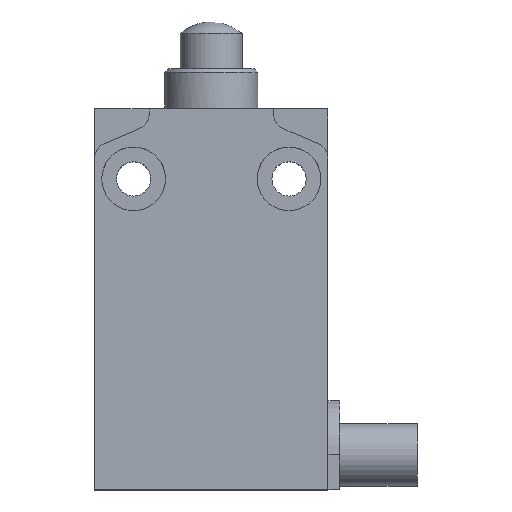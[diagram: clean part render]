
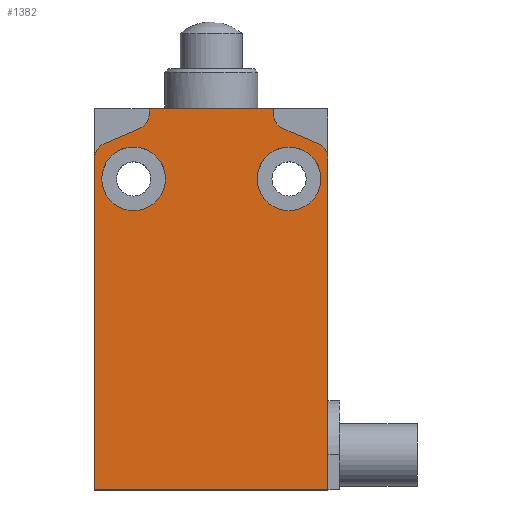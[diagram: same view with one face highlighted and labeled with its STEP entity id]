
A CAD part, top view. The second image highlights one B-rep face of the part: STEP entity #1382.
In plain terms, the highlighted planar face has unit normal (0, 0, 1) as drawn and (0, -1, 0) by its records, which use the part's own axes.
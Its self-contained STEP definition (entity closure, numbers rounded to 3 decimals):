
#45=FACE_BOUND('',#207,.T.);
#46=FACE_BOUND('',#208,.T.);
#65=PLANE('',#1546);
#123=FACE_OUTER_BOUND('',#206,.T.);
#206=EDGE_LOOP('',(#1011,#1012,#1013,#1014,#1015,#1016,#1017,#1018,#1019,
#1020,#1021,#1022));
#207=EDGE_LOOP('',(#1023,#1024));
#208=EDGE_LOOP('',(#1025));
#299=LINE('',#2196,#412);
#310=LINE('',#2234,#423);
#311=LINE('',#2238,#424);
#312=LINE('',#2240,#425);
#313=LINE('',#2242,#426);
#314=LINE('',#2246,#427);
#315=LINE('',#2250,#428);
#316=LINE('',#2251,#429);
#412=VECTOR('',#1772,42.681);
#423=VECTOR('',#1815,4.978);
#424=VECTOR('',#1818,0.681);
#425=VECTOR('',#1819,16.);
#426=VECTOR('',#1820,0.681);
#427=VECTOR('',#1823,4.978);
#428=VECTOR('',#1826,42.681);
#429=VECTOR('',#1827,30.);
#501=CIRCLE('',#1498,4.1);
#506=CIRCLE('',#1506,4.1);
#507=CIRCLE('',#1507,4.1);
#524=CIRCLE('',#1544,2.);
#526=CIRCLE('',#1547,2.);
#527=CIRCLE('',#1548,2.);
#528=CIRCLE('',#1549,2.);
#573=VERTEX_POINT('',#2090);
#578=VERTEX_POINT('',#2106);
#579=VERTEX_POINT('',#2107);
#612=VERTEX_POINT('',#2193);
#613=VERTEX_POINT('',#2195);
#622=VERTEX_POINT('',#2227);
#624=VERTEX_POINT('',#2233);
#625=VERTEX_POINT('',#2235);
#626=VERTEX_POINT('',#2237);
#627=VERTEX_POINT('',#2239);
#628=VERTEX_POINT('',#2241);
#629=VERTEX_POINT('',#2243);
#630=VERTEX_POINT('',#2245);
#631=VERTEX_POINT('',#2247);
#632=VERTEX_POINT('',#2249);
#707=EDGE_CURVE('',#573,#573,#501,.T.);
#714=EDGE_CURVE('',#578,#579,#506,.T.);
#715=EDGE_CURVE('',#579,#578,#507,.T.);
#757=EDGE_CURVE('',#612,#613,#299,.T.);
#771=EDGE_CURVE('',#622,#612,#524,.T.);
#774=EDGE_CURVE('',#622,#624,#310,.T.);
#775=EDGE_CURVE('',#625,#624,#526,.T.);
#776=EDGE_CURVE('',#625,#626,#311,.T.);
#777=EDGE_CURVE('',#627,#626,#312,.T.);
#778=EDGE_CURVE('',#627,#628,#313,.T.);
#779=EDGE_CURVE('',#629,#628,#527,.T.);
#780=EDGE_CURVE('',#629,#630,#314,.T.);
#781=EDGE_CURVE('',#631,#630,#528,.T.);
#782=EDGE_CURVE('',#632,#631,#315,.T.);
#783=EDGE_CURVE('',#613,#632,#316,.T.);
#1011=ORIENTED_EDGE('',*,*,#771,.F.);
#1012=ORIENTED_EDGE('',*,*,#774,.T.);
#1013=ORIENTED_EDGE('',*,*,#775,.F.);
#1014=ORIENTED_EDGE('',*,*,#776,.T.);
#1015=ORIENTED_EDGE('',*,*,#777,.F.);
#1016=ORIENTED_EDGE('',*,*,#778,.T.);
#1017=ORIENTED_EDGE('',*,*,#779,.F.);
#1018=ORIENTED_EDGE('',*,*,#780,.T.);
#1019=ORIENTED_EDGE('',*,*,#781,.F.);
#1020=ORIENTED_EDGE('',*,*,#782,.F.);
#1021=ORIENTED_EDGE('',*,*,#783,.F.);
#1022=ORIENTED_EDGE('',*,*,#757,.F.);
#1023=ORIENTED_EDGE('',*,*,#714,.T.);
#1024=ORIENTED_EDGE('',*,*,#715,.T.);
#1025=ORIENTED_EDGE('',*,*,#707,.T.);
#1382=ADVANCED_FACE('',(#123,#45,#46),#65,.T.);
#1498=AXIS2_PLACEMENT_3D('',#2092,#1675,#1676);
#1506=AXIS2_PLACEMENT_3D('',#2108,#1693,#1694);
#1507=AXIS2_PLACEMENT_3D('',#2109,#1695,#1696);
#1544=AXIS2_PLACEMENT_3D('',#2228,#1808,#1809);
#1546=AXIS2_PLACEMENT_3D('',#2232,#1813,#1814);
#1547=AXIS2_PLACEMENT_3D('',#2236,#1816,#1817);
#1548=AXIS2_PLACEMENT_3D('',#2244,#1821,#1822);
#1549=AXIS2_PLACEMENT_3D('',#2248,#1824,#1825);
#1675=DIRECTION('center_axis',(0.,1.,0.));
#1676=DIRECTION('ref_axis',(1.,0.,0.));
#1693=DIRECTION('center_axis',(0.,1.,0.));
#1694=DIRECTION('ref_axis',(-1.,0.,0.));
#1695=DIRECTION('center_axis',(0.,1.,0.));
#1696=DIRECTION('ref_axis',(-1.,0.,0.));
#1772=DIRECTION('',(0.,0.,-1.));
#1808=DIRECTION('center_axis',(0.,1.,0.));
#1809=DIRECTION('ref_axis',(0.835,0.,0.55));
#1813=DIRECTION('center_axis',(0.,-1.,0.));
#1814=DIRECTION('ref_axis',(1.,0.,0.));
#1815=DIRECTION('',(-0.919,0.,0.394));
#1816=DIRECTION('center_axis',(0.,-1.,0.));
#1817=DIRECTION('ref_axis',(-0.835,0.,-0.55));
#1818=DIRECTION('',(0.,0.,1.));
#1819=DIRECTION('',(1.,0.,0.));
#1820=DIRECTION('',(0.,0.,-1.));
#1821=DIRECTION('center_axis',(0.,-1.,0.));
#1822=DIRECTION('ref_axis',(0.835,0.,-0.55));
#1823=DIRECTION('',(-0.919,0.,-0.394));
#1824=DIRECTION('center_axis',(0.,1.,0.));
#1825=DIRECTION('ref_axis',(-0.835,0.,0.55));
#1826=DIRECTION('',(0.,0.,1.));
#1827=DIRECTION('',(-1.,0.,0.));
#2090=CARTESIAN_POINT('',(-14.1,-16.,0.));
#2092=CARTESIAN_POINT('Origin',(-10.,-16.,0.));
#2106=CARTESIAN_POINT('',(14.1,-16.,0.));
#2107=CARTESIAN_POINT('',(5.9,-16.,0.));
#2108=CARTESIAN_POINT('Origin',(10.,-16.,0.));
#2109=CARTESIAN_POINT('Origin',(10.,-16.,0.));
#2193=CARTESIAN_POINT('',(15.,-16.,2.681));
#2195=CARTESIAN_POINT('',(15.,-16.,-40.));
#2196=CARTESIAN_POINT('',(15.,-16.,2.681));
#2227=CARTESIAN_POINT('',(13.788,-16.,4.519));
#2228=CARTESIAN_POINT('Origin',(13.,-16.,2.681));
#2232=CARTESIAN_POINT('Origin',(0.,-16.,-15.5));
#2233=CARTESIAN_POINT('',(9.212,-16.,6.481));
#2234=CARTESIAN_POINT('',(13.788,-16.,4.519));
#2235=CARTESIAN_POINT('',(8.,-16.,8.319));
#2236=CARTESIAN_POINT('Origin',(10.,-16.,8.319));
#2237=CARTESIAN_POINT('',(8.,-16.,9.));
#2238=CARTESIAN_POINT('',(8.,-16.,8.319));
#2239=CARTESIAN_POINT('',(-8.,-16.,9.));
#2240=CARTESIAN_POINT('',(-8.,-16.,9.));
#2241=CARTESIAN_POINT('',(-8.,-16.,8.319));
#2242=CARTESIAN_POINT('',(-8.,-16.,9.));
#2243=CARTESIAN_POINT('',(-9.212,-16.,6.481));
#2244=CARTESIAN_POINT('Origin',(-10.,-16.,8.319));
#2245=CARTESIAN_POINT('',(-13.788,-16.,4.519));
#2246=CARTESIAN_POINT('',(-9.212,-16.,6.481));
#2247=CARTESIAN_POINT('',(-15.,-16.,2.681));
#2248=CARTESIAN_POINT('Origin',(-13.,-16.,2.681));
#2249=CARTESIAN_POINT('',(-15.,-16.,-40.));
#2250=CARTESIAN_POINT('',(-15.,-16.,-40.));
#2251=CARTESIAN_POINT('',(15.,-16.,-40.));
